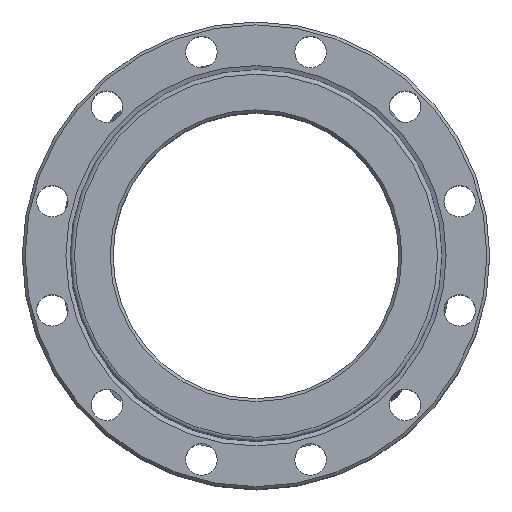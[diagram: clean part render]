
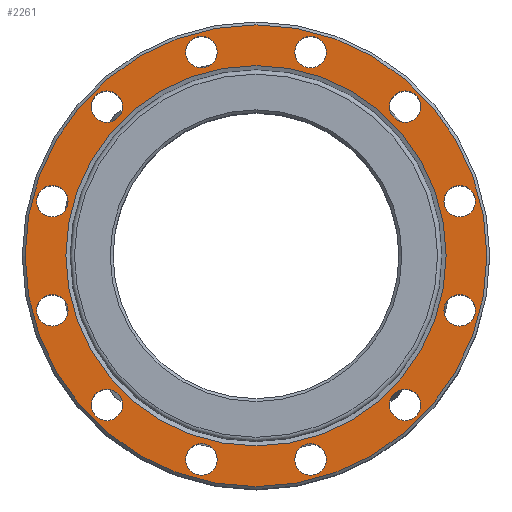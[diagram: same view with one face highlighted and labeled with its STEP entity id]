
A CAD part, top view. The second image highlights one B-rep face of the part: STEP entity #2261.
In plain terms, the highlighted planar face has unit normal (0, 0, 1).
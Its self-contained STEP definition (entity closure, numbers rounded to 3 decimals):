
#188=FACE_BOUND('',#444,.T.);
#189=FACE_BOUND('',#445,.T.);
#190=FACE_BOUND('',#446,.T.);
#191=FACE_BOUND('',#447,.T.);
#192=FACE_BOUND('',#448,.T.);
#193=FACE_BOUND('',#449,.T.);
#194=FACE_BOUND('',#450,.T.);
#195=FACE_BOUND('',#451,.T.);
#196=FACE_BOUND('',#452,.T.);
#197=FACE_BOUND('',#453,.T.);
#198=FACE_BOUND('',#454,.T.);
#199=FACE_BOUND('',#455,.T.);
#200=FACE_BOUND('',#456,.T.);
#209=PLANE('',#2458);
#289=FACE_OUTER_BOUND('',#443,.T.);
#443=EDGE_LOOP('',(#1592));
#444=EDGE_LOOP('',(#1593));
#445=EDGE_LOOP('',(#1594));
#446=EDGE_LOOP('',(#1595));
#447=EDGE_LOOP('',(#1596));
#448=EDGE_LOOP('',(#1597));
#449=EDGE_LOOP('',(#1598));
#450=EDGE_LOOP('',(#1599));
#451=EDGE_LOOP('',(#1600));
#452=EDGE_LOOP('',(#1601));
#453=EDGE_LOOP('',(#1602));
#454=EDGE_LOOP('',(#1603));
#455=EDGE_LOOP('',(#1604));
#456=EDGE_LOOP('',(#1605));
#759=CIRCLE('',#2403,11.);
#761=CIRCLE('',#2406,11.);
#763=CIRCLE('',#2409,11.);
#765=CIRCLE('',#2412,11.);
#767=CIRCLE('',#2415,11.);
#769=CIRCLE('',#2418,11.);
#771=CIRCLE('',#2421,11.);
#773=CIRCLE('',#2424,11.);
#775=CIRCLE('',#2427,11.);
#777=CIRCLE('',#2430,11.);
#779=CIRCLE('',#2433,11.);
#781=CIRCLE('',#2436,11.);
#793=CIRCLE('',#2457,161.5);
#794=CIRCLE('',#2459,133.);
#936=VERTEX_POINT('',#3351);
#938=VERTEX_POINT('',#3357);
#940=VERTEX_POINT('',#3363);
#942=VERTEX_POINT('',#3369);
#944=VERTEX_POINT('',#3375);
#946=VERTEX_POINT('',#3381);
#948=VERTEX_POINT('',#3387);
#950=VERTEX_POINT('',#3393);
#952=VERTEX_POINT('',#3399);
#954=VERTEX_POINT('',#3405);
#956=VERTEX_POINT('',#3411);
#958=VERTEX_POINT('',#3417);
#970=VERTEX_POINT('',#3456);
#971=VERTEX_POINT('',#3460);
#1154=EDGE_CURVE('',#936,#936,#759,.T.);
#1157=EDGE_CURVE('',#938,#938,#761,.T.);
#1160=EDGE_CURVE('',#940,#940,#763,.T.);
#1163=EDGE_CURVE('',#942,#942,#765,.T.);
#1166=EDGE_CURVE('',#944,#944,#767,.T.);
#1169=EDGE_CURVE('',#946,#946,#769,.T.);
#1172=EDGE_CURVE('',#948,#948,#771,.T.);
#1175=EDGE_CURVE('',#950,#950,#773,.T.);
#1178=EDGE_CURVE('',#952,#952,#775,.T.);
#1181=EDGE_CURVE('',#954,#954,#777,.T.);
#1184=EDGE_CURVE('',#956,#956,#779,.T.);
#1187=EDGE_CURVE('',#958,#958,#781,.T.);
#1206=EDGE_CURVE('',#970,#970,#793,.T.);
#1207=EDGE_CURVE('',#971,#971,#794,.T.);
#1592=ORIENTED_EDGE('',*,*,#1206,.F.);
#1593=ORIENTED_EDGE('',*,*,#1154,.T.);
#1594=ORIENTED_EDGE('',*,*,#1157,.T.);
#1595=ORIENTED_EDGE('',*,*,#1160,.T.);
#1596=ORIENTED_EDGE('',*,*,#1163,.T.);
#1597=ORIENTED_EDGE('',*,*,#1166,.T.);
#1598=ORIENTED_EDGE('',*,*,#1169,.T.);
#1599=ORIENTED_EDGE('',*,*,#1172,.T.);
#1600=ORIENTED_EDGE('',*,*,#1175,.T.);
#1601=ORIENTED_EDGE('',*,*,#1178,.T.);
#1602=ORIENTED_EDGE('',*,*,#1181,.T.);
#1603=ORIENTED_EDGE('',*,*,#1184,.T.);
#1604=ORIENTED_EDGE('',*,*,#1187,.T.);
#1605=ORIENTED_EDGE('',*,*,#1207,.T.);
#2261=ADVANCED_FACE('',(#289,#188,#189,#190,#191,#192,#193,#194,#195,#196,
#197,#198,#199,#200),#209,.F.);
#2403=AXIS2_PLACEMENT_3D('',#3352,#2725,#2726);
#2406=AXIS2_PLACEMENT_3D('',#3358,#2732,#2733);
#2409=AXIS2_PLACEMENT_3D('',#3364,#2739,#2740);
#2412=AXIS2_PLACEMENT_3D('',#3370,#2746,#2747);
#2415=AXIS2_PLACEMENT_3D('',#3376,#2753,#2754);
#2418=AXIS2_PLACEMENT_3D('',#3382,#2760,#2761);
#2421=AXIS2_PLACEMENT_3D('',#3388,#2767,#2768);
#2424=AXIS2_PLACEMENT_3D('',#3394,#2774,#2775);
#2427=AXIS2_PLACEMENT_3D('',#3400,#2781,#2782);
#2430=AXIS2_PLACEMENT_3D('',#3406,#2788,#2789);
#2433=AXIS2_PLACEMENT_3D('',#3412,#2795,#2796);
#2436=AXIS2_PLACEMENT_3D('',#3418,#2802,#2803);
#2457=AXIS2_PLACEMENT_3D('',#3458,#2851,#2852);
#2458=AXIS2_PLACEMENT_3D('',#3459,#2853,#2854);
#2459=AXIS2_PLACEMENT_3D('',#3461,#2855,#2856);
#2725=DIRECTION('center_axis',(0.,0.,-1.));
#2726=DIRECTION('ref_axis',(1.,0.,0.));
#2732=DIRECTION('center_axis',(0.,0.,-1.));
#2733=DIRECTION('ref_axis',(1.,0.,0.));
#2739=DIRECTION('center_axis',(0.,0.,-1.));
#2740=DIRECTION('ref_axis',(1.,0.,0.));
#2746=DIRECTION('center_axis',(0.,0.,-1.));
#2747=DIRECTION('ref_axis',(1.,0.,0.));
#2753=DIRECTION('center_axis',(0.,0.,-1.));
#2754=DIRECTION('ref_axis',(1.,0.,0.));
#2760=DIRECTION('center_axis',(0.,0.,-1.));
#2761=DIRECTION('ref_axis',(1.,0.,0.));
#2767=DIRECTION('center_axis',(0.,0.,-1.));
#2768=DIRECTION('ref_axis',(1.,0.,0.));
#2774=DIRECTION('center_axis',(0.,0.,-1.));
#2775=DIRECTION('ref_axis',(1.,0.,0.));
#2781=DIRECTION('center_axis',(0.,0.,-1.));
#2782=DIRECTION('ref_axis',(1.,0.,0.));
#2788=DIRECTION('center_axis',(0.,0.,-1.));
#2789=DIRECTION('ref_axis',(1.,0.,0.));
#2795=DIRECTION('center_axis',(0.,0.,-1.));
#2796=DIRECTION('ref_axis',(1.,0.,0.));
#2802=DIRECTION('center_axis',(0.,0.,-1.));
#2803=DIRECTION('ref_axis',(1.,0.,0.));
#2851=DIRECTION('center_axis',(0.,0.,-1.));
#2852=DIRECTION('ref_axis',(-1.,0.,0.));
#2853=DIRECTION('center_axis',(0.,0.,-1.));
#2854=DIRECTION('ref_axis',(-1.,0.,0.));
#2855=DIRECTION('center_axis',(0.,0.,-1.));
#2856=DIRECTION('ref_axis',(0.,1.,0.));
#3351=CARTESIAN_POINT('',(-153.474,38.176,101.));
#3352=CARTESIAN_POINT('Origin',(-142.474,38.176,101.));
#3357=CARTESIAN_POINT('',(27.176,-142.474,101.));
#3358=CARTESIAN_POINT('Origin',(38.176,-142.474,101.));
#3363=CARTESIAN_POINT('',(93.298,104.298,101.));
#3364=CARTESIAN_POINT('Origin',(104.298,104.298,101.));
#3369=CARTESIAN_POINT('',(131.474,38.176,101.));
#3370=CARTESIAN_POINT('Origin',(142.474,38.176,101.));
#3375=CARTESIAN_POINT('',(-49.176,-142.474,101.));
#3376=CARTESIAN_POINT('Origin',(-38.176,-142.474,101.));
#3381=CARTESIAN_POINT('',(-115.298,104.298,101.));
#3382=CARTESIAN_POINT('Origin',(-104.298,104.298,101.));
#3387=CARTESIAN_POINT('',(-153.474,-38.176,101.));
#3388=CARTESIAN_POINT('Origin',(-142.474,-38.176,101.));
#3393=CARTESIAN_POINT('',(93.298,-104.298,101.));
#3394=CARTESIAN_POINT('Origin',(104.298,-104.298,101.));
#3399=CARTESIAN_POINT('',(27.176,142.474,101.));
#3400=CARTESIAN_POINT('Origin',(38.176,142.474,101.));
#3405=CARTESIAN_POINT('',(131.474,-38.176,101.));
#3406=CARTESIAN_POINT('Origin',(142.474,-38.176,101.));
#3411=CARTESIAN_POINT('',(-115.298,-104.298,101.));
#3412=CARTESIAN_POINT('Origin',(-104.298,-104.298,101.));
#3417=CARTESIAN_POINT('',(-49.176,142.474,101.));
#3418=CARTESIAN_POINT('Origin',(-38.176,142.474,101.));
#3456=CARTESIAN_POINT('',(161.5,0.,101.));
#3458=CARTESIAN_POINT('Origin',(0.,0.,101.));
#3459=CARTESIAN_POINT('Origin',(0.,0.,101.));
#3460=CARTESIAN_POINT('',(0.,-133.,101.));
#3461=CARTESIAN_POINT('Origin',(0.,0.,101.));
